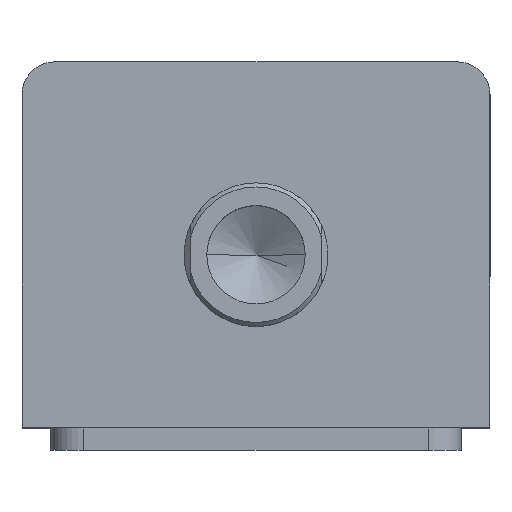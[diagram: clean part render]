
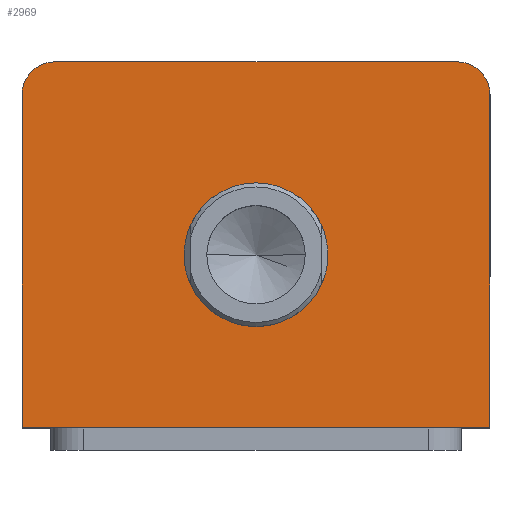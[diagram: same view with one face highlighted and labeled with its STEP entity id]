
A CAD part, top view. The second image highlights one B-rep face of the part: STEP entity #2969.
In plain terms, the highlighted planar face has unit normal (0, 0, 1).
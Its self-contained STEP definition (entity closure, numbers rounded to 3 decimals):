
#147 = DIRECTION ( 'NONE',  ( 1., 0., 0. ) ) ;
#149 = DIRECTION ( 'NONE',  ( 0., 0., 1. ) ) ;
#150 = CARTESIAN_POINT ( 'NONE',  ( -49., 36.5, 177. ) ) ;
#168 = DIRECTION ( 'NONE',  ( 0., -1., 0. ) ) ;
#170 = CARTESIAN_POINT ( 'NONE',  ( -57., 44.5, 177. ) ) ;
#366 = VECTOR ( 'NONE', #1240, 1000. ) ;
#369 = LINE ( 'NONE', #1241, #366 ) ;
#438 = CARTESIAN_POINT ( 'NONE',  ( -49., 44.5, 177. ) ) ;
#454 = CARTESIAN_POINT ( 'NONE',  ( -57., 36.5, 177. ) ) ;
#722 = ORIENTED_EDGE ( 'NONE', *, *, #1621, .F. ) ;
#728 = ORIENTED_EDGE ( 'NONE', *, *, #1572, .T. ) ;
#748 = ORIENTED_EDGE ( 'NONE', *, *, #1633, .F. ) ;
#782 = ORIENTED_EDGE ( 'NONE', *, *, #1576, .T. ) ;
#813 = ORIENTED_EDGE ( 'NONE', *, *, #1666, .T. ) ;
#816 = ORIENTED_EDGE ( 'NONE', *, *, #1465, .T. ) ;
#820 = ORIENTED_EDGE ( 'NONE', *, *, #1678, .T. ) ;
#851 = ORIENTED_EDGE ( 'NONE', *, *, #1656, .T. ) ;
#923 = VERTEX_POINT ( 'NONE', #454 ) ;
#939 = VERTEX_POINT ( 'NONE', #438 ) ;
#1045 = VERTEX_POINT ( 'NONE', #1369 ) ;
#1047 = VERTEX_POINT ( 'NONE', #1366 ) ;
#1051 = VERTEX_POINT ( 'NONE', #1361 ) ;
#1054 = VERTEX_POINT ( 'NONE', #1358 ) ;
#1056 = VERTEX_POINT ( 'NONE', #1356 ) ;
#1064 = VERTEX_POINT ( 'NONE', #1347 ) ;
#1240 = DIRECTION ( 'NONE',  ( -1., 0., 0. ) ) ;
#1241 = CARTESIAN_POINT ( 'NONE',  ( -57., 44.5, 177. ) ) ;
#1347 = CARTESIAN_POINT ( 'NONE',  ( 17.5, -2.5, 177. ) ) ;
#1356 = CARTESIAN_POINT ( 'NONE',  ( 49., 44.5, 177. ) ) ;
#1358 = CARTESIAN_POINT ( 'NONE',  ( 57., 36.5, 177. ) ) ;
#1361 = CARTESIAN_POINT ( 'NONE',  ( -57., -44.5, 177. ) ) ;
#1366 = CARTESIAN_POINT ( 'NONE',  ( -17.5, -2.5, 177. ) ) ;
#1369 = CARTESIAN_POINT ( 'NONE',  ( 57., -44.5, 177. ) ) ;
#1465 = EDGE_CURVE ( 'NONE', #1056, #939, #369, .T. ) ;
#1572 = EDGE_CURVE ( 'NONE', #923, #1051, #2115, .T. ) ;
#1576 = EDGE_CURVE ( 'NONE', #939, #923, #2097, .T. ) ;
#1621 = EDGE_CURVE ( 'NONE', #1047, #1064, #2178, .T. ) ;
#1633 = EDGE_CURVE ( 'NONE', #1064, #1047, #2205, .T. ) ;
#1656 = EDGE_CURVE ( 'NONE', #1045, #1054, #2243, .T. ) ;
#1666 = EDGE_CURVE ( 'NONE', #1051, #1045, #2261, .T. ) ;
#1678 = EDGE_CURVE ( 'NONE', #1054, #1056, #2277, .T. ) ;
#1734 = AXIS2_PLACEMENT_3D ( 'NONE', #150, #149, #147 ) ;
#1758 = AXIS2_PLACEMENT_3D ( 'NONE', #3422, #3421, #3420 ) ;
#1763 = AXIS2_PLACEMENT_3D ( 'NONE', #3371, #3370, #3369 ) ;
#1778 = AXIS2_PLACEMENT_3D ( 'NONE', #2767, #2762, #2761 ) ;
#1877 = AXIS2_PLACEMENT_3D ( 'NONE', #3051, #3043, #3042 ) ;
#2006 = EDGE_LOOP ( 'NONE', ( #748, #722 ) ) ;
#2043 = EDGE_LOOP ( 'NONE', ( #816, #782, #728, #813, #851, #820 ) ) ;
#2097 = CIRCLE ( 'NONE', #1734, 8. ) ;
#2115 = LINE ( 'NONE', #170, #2118 ) ;
#2118 = VECTOR ( 'NONE', #168, 1000. ) ;
#2178 = CIRCLE ( 'NONE', #1758, 17.5 ) ;
#2205 = CIRCLE ( 'NONE', #1763, 17.5 ) ;
#2243 = LINE ( 'NONE', #3295, #2246 ) ;
#2246 = VECTOR ( 'NONE', #3294, 1000. ) ;
#2261 = LINE ( 'NONE', #3397, #2264 ) ;
#2264 = VECTOR ( 'NONE', #3419, 1000. ) ;
#2277 = CIRCLE ( 'NONE', #1778, 8. ) ;
#2450 = FACE_BOUND ( 'NONE', #2006, .T. ) ;
#2456 = FACE_OUTER_BOUND ( 'NONE', #2043, .T. ) ;
#2761 = DIRECTION ( 'NONE',  ( 1., 0., 0. ) ) ;
#2762 = DIRECTION ( 'NONE',  ( 0., 0., 1. ) ) ;
#2767 = CARTESIAN_POINT ( 'NONE',  ( 49., 36.5, 177. ) ) ;
#2969 = ADVANCED_FACE ( 'NONE', ( #2450, #2456 ), #3055, .T. ) ;
#3042 = DIRECTION ( 'NONE',  ( 1., 0., 0. ) ) ;
#3043 = DIRECTION ( 'NONE',  ( 0., 0., 1. ) ) ;
#3051 = CARTESIAN_POINT ( 'NONE',  ( 0., 0., 177. ) ) ;
#3055 = PLANE ( 'NONE',  #1877 ) ;
#3294 = DIRECTION ( 'NONE',  ( 0., 1., 0. ) ) ;
#3295 = CARTESIAN_POINT ( 'NONE',  ( 57., 44.5, 177. ) ) ;
#3369 = DIRECTION ( 'NONE',  ( 1., 0., 0. ) ) ;
#3370 = DIRECTION ( 'NONE',  ( 0., 0., 1. ) ) ;
#3371 = CARTESIAN_POINT ( 'NONE',  ( 0., -2.5, 177. ) ) ;
#3397 = CARTESIAN_POINT ( 'NONE',  ( -57., -44.5, 177. ) ) ;
#3419 = DIRECTION ( 'NONE',  ( 1., 0., 0. ) ) ;
#3420 = DIRECTION ( 'NONE',  ( 1., 0., 0. ) ) ;
#3421 = DIRECTION ( 'NONE',  ( 0., 0., 1. ) ) ;
#3422 = CARTESIAN_POINT ( 'NONE',  ( 0., -2.5, 177. ) ) ;
